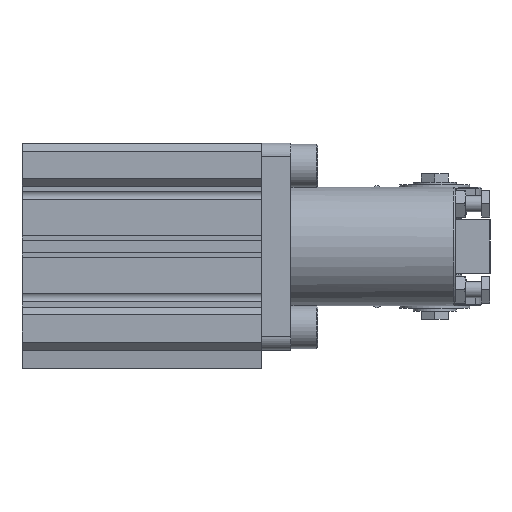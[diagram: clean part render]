
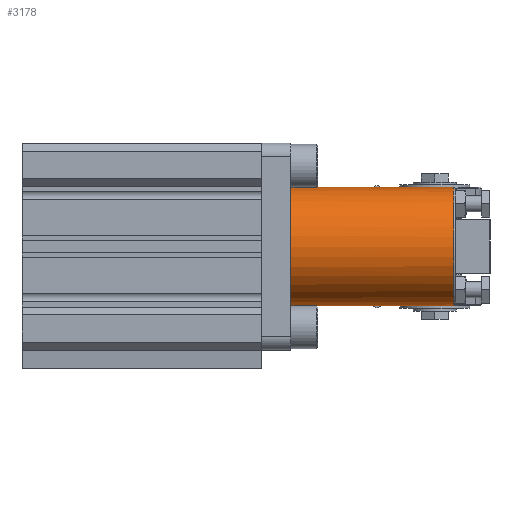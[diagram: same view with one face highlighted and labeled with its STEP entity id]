
A CAD part, left-side view. The second image highlights one B-rep face of the part: STEP entity #3178.
In plain terms, the highlighted cylindrical face has radius 22 mm (diameter 44 mm), a partial arc.
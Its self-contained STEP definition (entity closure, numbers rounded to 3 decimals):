
#221=B_SPLINE_CURVE_WITH_KNOTS('',3,(#17377,#17378,#17379,#17380,#17381,
#17382,#17383,#17384),.UNSPECIFIED.,.F.,.F.,(4,2,2,4),(0.,0.312,
0.655,1.),.UNSPECIFIED.);
#227=B_SPLINE_CURVE_WITH_KNOTS('',3,(#17534,#17535,#17536,#17537,#17538,
#17539,#17540,#17541),.UNSPECIFIED.,.F.,.F.,(4,2,2,4),(0.,0.312,
0.655,1.),.UNSPECIFIED.);
#540=LINE('',#16859,#1407);
#544=LINE('',#17000,#1411);
#1407=VECTOR('',#13436,1.);
#1411=VECTOR('',#13462,1.);
#2161=CYLINDRICAL_SURFACE('',#12051,22.);
#3178=ADVANCED_FACE('',(#4277),#2161,.T.);
#4277=FACE_OUTER_BOUND('',#4872,.T.);
#4872=EDGE_LOOP('',(#6376,#6377,#6378,#6379,#6380,#6381));
#6376=ORIENTED_EDGE('',*,*,#10182,.F.);
#6377=ORIENTED_EDGE('',*,*,#10180,.F.);
#6378=ORIENTED_EDGE('',*,*,#10064,.F.);
#6379=ORIENTED_EDGE('',*,*,#10038,.T.);
#6380=ORIENTED_EDGE('',*,*,#10052,.T.);
#6381=ORIENTED_EDGE('',*,*,#10213,.F.);
#8903=VERTEX_POINT('',#16831);
#8904=VERTEX_POINT('',#16832);
#8916=VERTEX_POINT('',#16858);
#8927=VERTEX_POINT('',#17001);
#9011=VERTEX_POINT('',#17385);
#9012=VERTEX_POINT('',#17415);
#10038=EDGE_CURVE('',#8903,#8904,#11392,.T.);
#10052=EDGE_CURVE('',#8904,#8916,#540,.T.);
#10064=EDGE_CURVE('',#8903,#8927,#544,.T.);
#10180=EDGE_CURVE('',#8927,#9011,#221,.T.);
#10182=EDGE_CURVE('',#9011,#9012,#11444,.T.);
#10213=EDGE_CURVE('',#9012,#8916,#227,.T.);
#11392=CIRCLE('',#11920,22.);
#11444=CIRCLE('',#12014,22.);
#11920=AXIS2_PLACEMENT_3D('',#16830,#13410,#13411);
#12014=AXIS2_PLACEMENT_3D('',#17414,#13673,#13674);
#12051=AXIS2_PLACEMENT_3D('',#17566,#13758,#13759);
#13410=DIRECTION('',(0.,-1.,0.));
#13411=DIRECTION('',(0.,0.,1.));
#13436=DIRECTION('',(0.,-1.,0.));
#13462=DIRECTION('',(0.,-1.,0.));
#13673=DIRECTION('',(0.,-1.,0.));
#13674=DIRECTION('',(-0.037,0.,0.999));
#13758=DIRECTION('',(0.,-1.,0.));
#13759=DIRECTION('',(0.,0.,1.));
#16830=CARTESIAN_POINT('',(38.5,-11.,-38.5));
#16831=CARTESIAN_POINT('',(38.5,-11.,-16.5));
#16832=CARTESIAN_POINT('',(38.5,-11.,-60.5));
#16858=CARTESIAN_POINT('',(38.5,-71.594,-60.5));
#16859=CARTESIAN_POINT('',(38.5,-11.,-60.5));
#17000=CARTESIAN_POINT('',(38.5,-11.,-16.5));
#17001=CARTESIAN_POINT('',(38.5,-71.594,-16.5));
#17377=CARTESIAN_POINT('',(38.5,-71.594,-16.5));
#17378=CARTESIAN_POINT('',(38.416,-71.574,-16.5));
#17379=CARTESIAN_POINT('',(38.331,-71.558,-16.5));
#17380=CARTESIAN_POINT('',(38.152,-71.53,-16.503));
#17381=CARTESIAN_POINT('',(38.057,-71.519,-16.504));
#17382=CARTESIAN_POINT('',(37.868,-71.504,-16.509));
#17383=CARTESIAN_POINT('',(37.772,-71.5,-16.512));
#17384=CARTESIAN_POINT('',(37.677,-71.5,-16.515));
#17385=CARTESIAN_POINT('',(37.677,-71.5,-16.515));
#17414=CARTESIAN_POINT('',(38.5,-71.5,-38.5));
#17415=CARTESIAN_POINT('',(37.677,-71.5,-60.485));
#17534=CARTESIAN_POINT('',(37.677,-71.5,-60.485));
#17535=CARTESIAN_POINT('',(37.763,-71.5,-60.488));
#17536=CARTESIAN_POINT('',(37.85,-71.503,-60.491));
#17537=CARTESIAN_POINT('',(38.031,-71.516,-60.495));
#17538=CARTESIAN_POINT('',(38.125,-71.526,-60.497));
#17539=CARTESIAN_POINT('',(38.313,-71.554,-60.499));
#17540=CARTESIAN_POINT('',(38.407,-71.572,-60.5));
#17541=CARTESIAN_POINT('',(38.5,-71.594,-60.5));
#17566=CARTESIAN_POINT('',(38.5,-11.,-38.5));
